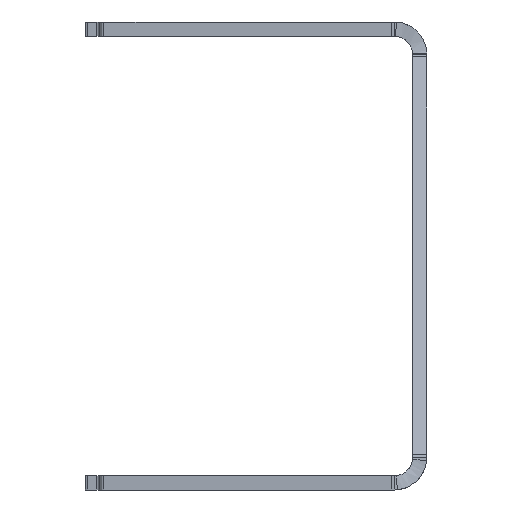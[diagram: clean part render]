
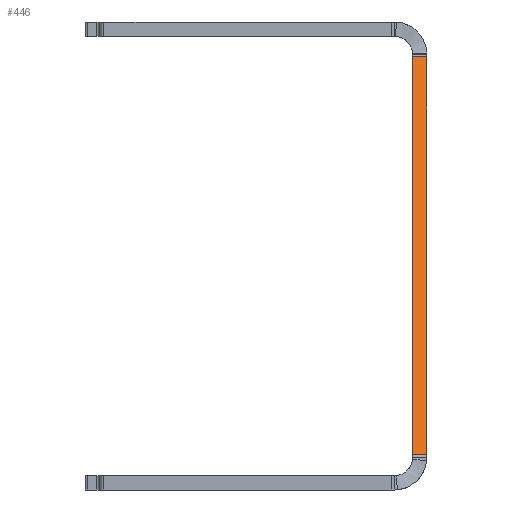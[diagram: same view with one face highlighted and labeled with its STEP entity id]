
A CAD part, left-side view. The second image highlights one B-rep face of the part: STEP entity #446.
In plain terms, the highlighted planar face has unit normal (-0.866, 0, 0.5).
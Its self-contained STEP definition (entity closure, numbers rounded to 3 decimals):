
#213=FACE_OUTER_BOUND('',#938,.T.);
#446=ADVANCED_FACE('',(#213),#695,.T.);
#695=PLANE('',#5191);
#938=EDGE_LOOP('',(#1896,#1897,#1898,#1899));
#1896=ORIENTED_EDGE('',*,*,#3449,.F.);
#1897=ORIENTED_EDGE('',*,*,#3788,.T.);
#1898=ORIENTED_EDGE('',*,*,#3535,.T.);
#1899=ORIENTED_EDGE('',*,*,#3789,.T.);
#2966=VERTEX_POINT('',#7041);
#2967=VERTEX_POINT('',#7043);
#3052=VERTEX_POINT('',#7215);
#3053=VERTEX_POINT('',#7216);
#3449=EDGE_CURVE('',#2966,#2967,#4124,.T.);
#3535=EDGE_CURVE('',#3052,#3053,#4167,.T.);
#3788=EDGE_CURVE('',#2966,#3052,#4296,.T.);
#3789=EDGE_CURVE('',#3053,#2967,#4297,.T.);
#4124=LINE('',#7042,#4566);
#4167=LINE('',#7214,#4609);
#4296=LINE('',#7712,#4738);
#4297=LINE('',#7714,#4739);
#4566=VECTOR('',#5581,1.);
#4609=VECTOR('',#5712,1.);
#4738=VECTOR('',#6115,1.);
#4739=VECTOR('',#6118,1.);
#5191=AXIS2_PLACEMENT_3D('',#7715,#6119,#6120);
#5581=DIRECTION('',(-0.5,0.,-0.866));
#5712=DIRECTION('',(-0.5,0.,-0.866));
#6115=DIRECTION('',(0.,1.,0.));
#6118=DIRECTION('',(0.,-1.,0.));
#6119=DIRECTION('',(-0.866,0.,0.5));
#6120=DIRECTION('',(0.5,0.,0.866));
#7041=CARTESIAN_POINT('',(106.901,-140.,-14.905));
#7042=CARTESIAN_POINT('',(0.027,-140.,-200.016));
#7043=CARTESIAN_POINT('',(8.71,-140.,-184.977));
#7214=CARTESIAN_POINT('',(0.027,-134.,-200.016));
#7215=CARTESIAN_POINT('',(106.901,-134.,-14.905));
#7216=CARTESIAN_POINT('',(8.71,-134.,-184.977));
#7712=CARTESIAN_POINT('',(106.901,-140.,-14.905));
#7714=CARTESIAN_POINT('',(8.71,-140.,-184.977));
#7715=CARTESIAN_POINT('',(0.027,-140.,-200.016));
